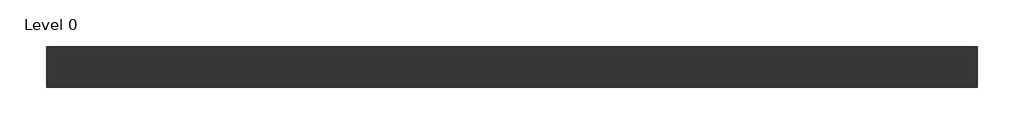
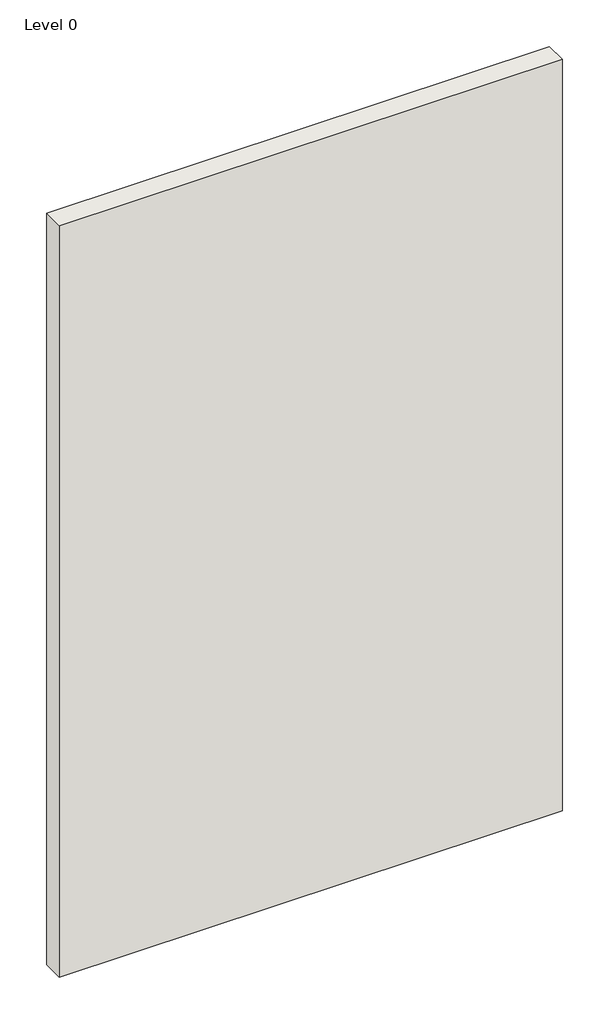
# One storey: 1 wall.
"""IFC4 building model written with IfcOpenShell, lengths in millimetres."""

from ifc_helpers import new_model, si_unit, origin, origin_with_axes, place, context, project, spatial, polyline, outline, extrude, element, save

model = new_model("IFC4")

# Units and contexts
model_context = context("Model", 3, world=origin())
ifc_project = project(units=[si_unit("LENGTHUNIT", "METRE", prefix="MILLI")], contexts=[model_context])

# Site, building, storey
site = spatial("IfcSite", under=ifc_project)
building = spatial("IfcBuilding", under=site)
storey = spatial("IfcBuildingStorey", under=building, Name="Level 0", Elevation=0.0)

# Wall
placement = place(None, origin())
element("IfcWall", 1, ObjectType="G106005 - GypWall Classic", at=placement, inside=storey, context=model_context, shape_type="SweptSolid", body=[
    extrude(outline(polyline([(1155.997948, 487.7669953), (-1944.002052, 487.7669953), (-1944.002052, 622.7669953), (1155.997948, 622.7669953), (1155.997948, 487.7669953)])), origin_with_axes(), (0.0, 0.0, 1.0), 4900.0),
])

save(model, "model.ifc")
